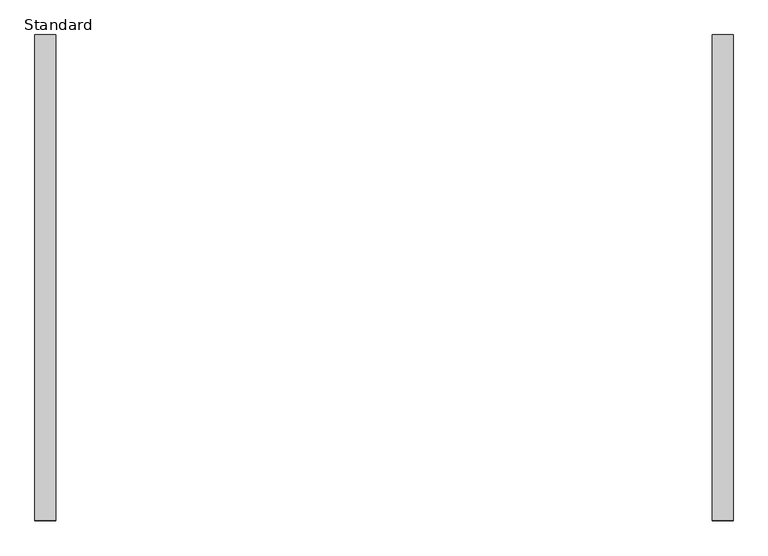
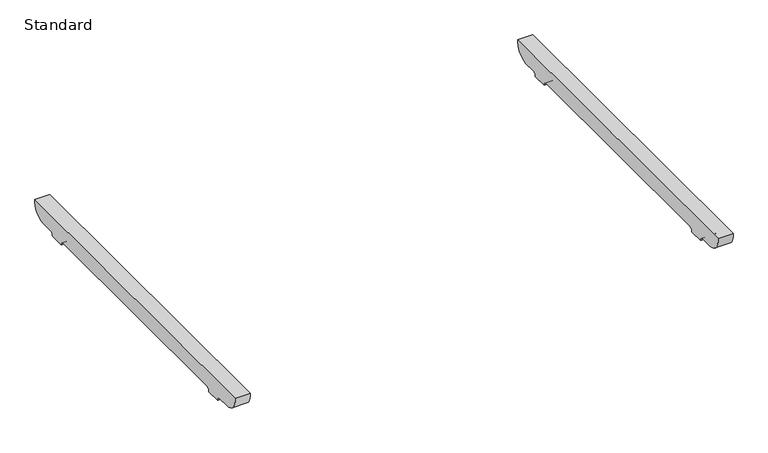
"""IFC4 building model written with IfcOpenShell, lengths in millimetres: furniture geometry, BDG_BossDesign_Tbls_AgentTables4Legs_Nested : Standard."""

from ifc_helpers import new_model, si_unit, point, frame, frame_2d, origin, place, context, project, spatial, polyline, circle_curve, trimmed, segment, composite_curve, outline, extrude, source, transform, mapped, element, save


def standard_5c13200c(model_context):
    return source(origin(), model_context, "Body", "SweptSolid", [
        extrude(outline(composite_curve([segment(polyline([(480.5450184, 672.0), (442.7000122, 672.0)]), True, "CONTINUOUS"), segment(trimmed(circle_curve(frame_2d((442.7000122, 660.0)), 12.0), [point((442.7000122, 672.0))], [point((430.7000122, 660.0))], True, "CARTESIAN"), True, "CONTINUOUS"), segment(polyline([(430.7000122, 660.0), (385.7000122, 660.0)]), True, "CONTINUOUS"), segment(trimmed(circle_curve(frame_2d((373.7000122, 660.0)), 12.0), [point((385.7000122, 660.0))], [point((373.7000122, 672.0))], True, "CARTESIAN"), True, "CONTINUOUS"), segment(polyline([(373.7000122, 672.0), (-373.7000122, 672.0)]), True, "CONTINUOUS"), segment(trimmed(circle_curve(frame_2d((-373.7000122, 660.0)), 12.0), [point((-373.7000122, 672.0))], [point((-385.7000122, 660.0))], True, "CARTESIAN"), True, "CONTINUOUS"), segment(polyline([(-385.7000122, 660.0), (-430.7000122, 660.0)]), True, "CONTINUOUS"), segment(trimmed(circle_curve(frame_2d((-442.7000122, 660.0)), 12.0), [point((-430.7000122, 660.0))], [point((-442.7000122, 672.0))], True, "CARTESIAN"), True, "CONTINUOUS"), segment(polyline([(-442.7000122, 672.0), (-480.5450184, 672.0)]), True, "CONTINUOUS"), segment(trimmed(circle_curve(frame_2d((-478.2220439, 716.5514119)), 44.6119324), [point((-480.5450184, 672.0))], [point((-522.5, 722.0))], False, "CARTESIAN"), True, "CONTINUOUS"), segment(polyline([(-522.5, 722.0), (522.5, 722.0)]), True, "CONTINUOUS"), segment(trimmed(circle_curve(frame_2d((478.2220439, 716.5514119)), 44.6119324), [point((522.5, 722.0))], [point((480.5450184, 672.0))], False, "CARTESIAN"), True, "CONTINUOUS")], self_intersect=False)), frame((705.0, 0.0, 0.0), z_axis=(1.0, 0.0, 0.0), x_axis=(0.0, 1.0, 0.0)), (0.0, 0.0, 1.0), 45.0),
        extrude(outline(composite_curve([segment(polyline([(480.5450184, 672.0), (442.7000122, 672.0)]), True, "CONTINUOUS"), segment(trimmed(circle_curve(frame_2d((442.7000122, 660.0)), 12.0), [point((442.7000122, 672.0))], [point((430.7000122, 660.0))], True, "CARTESIAN"), True, "CONTINUOUS"), segment(polyline([(430.7000122, 660.0), (385.7000122, 660.0)]), True, "CONTINUOUS"), segment(trimmed(circle_curve(frame_2d((373.7000122, 660.0)), 12.0), [point((385.7000122, 660.0))], [point((373.7000122, 672.0))], True, "CARTESIAN"), True, "CONTINUOUS"), segment(polyline([(373.7000122, 672.0), (-373.7000122, 672.0)]), True, "CONTINUOUS"), segment(trimmed(circle_curve(frame_2d((-373.7000122, 660.0)), 12.0), [point((-373.7000122, 672.0))], [point((-385.7000122, 660.0))], True, "CARTESIAN"), True, "CONTINUOUS"), segment(polyline([(-385.7000122, 660.0), (-430.7000122, 660.0)]), True, "CONTINUOUS"), segment(trimmed(circle_curve(frame_2d((-442.7000122, 660.0)), 12.0), [point((-430.7000122, 660.0))], [point((-442.7000122, 672.0))], True, "CARTESIAN"), True, "CONTINUOUS"), segment(polyline([(-442.7000122, 672.0), (-480.5450184, 672.0)]), True, "CONTINUOUS"), segment(trimmed(circle_curve(frame_2d((-478.2220439, 716.5514119)), 44.6119324), [point((-480.5450184, 672.0))], [point((-522.5, 722.0))], False, "CARTESIAN"), True, "CONTINUOUS"), segment(polyline([(-522.5, 722.0), (522.5, 722.0)]), True, "CONTINUOUS"), segment(trimmed(circle_curve(frame_2d((478.2220439, 716.5514119)), 44.6119324), [point((522.5, 722.0))], [point((480.5450184, 672.0))], False, "CARTESIAN"), True, "CONTINUOUS")], self_intersect=False)), frame((-750.0, 0.0, 0.0), z_axis=(1.0, 0.0, 0.0), x_axis=(0.0, 1.0, 0.0)), (0.0, 0.0, 1.0), 45.0),
    ])


if __name__ == "__main__":
    model = new_model("IFC4")
    model_context = context("Model", 3, world=origin())
    ifc_project = project(units=[si_unit("LENGTHUNIT", "METRE", prefix="MILLI")], contexts=[model_context])
    site = spatial("IfcSite", under=ifc_project)
    building = spatial("IfcBuilding", under=site)
    placement = place(None, origin())
    standard_shape = standard_5c13200c(model_context)
    element("IfcFurniture", 1, ObjectType="BDG_BossDesign_Tbls_AgentTables4Legs_Nested : Standard", at=placement, inside=building, context=model_context, shape_type="MappedRepresentation", body=[
        mapped(standard_shape, transform((0.0, 0.0, 0.0), x_axis=(1.0, 0.0, 0.0), y_axis=(0.0, 1.0, 0.0), z_axis=(0.0, 0.0, 1.0))),
    ])
    save(model, "model.ifc")
